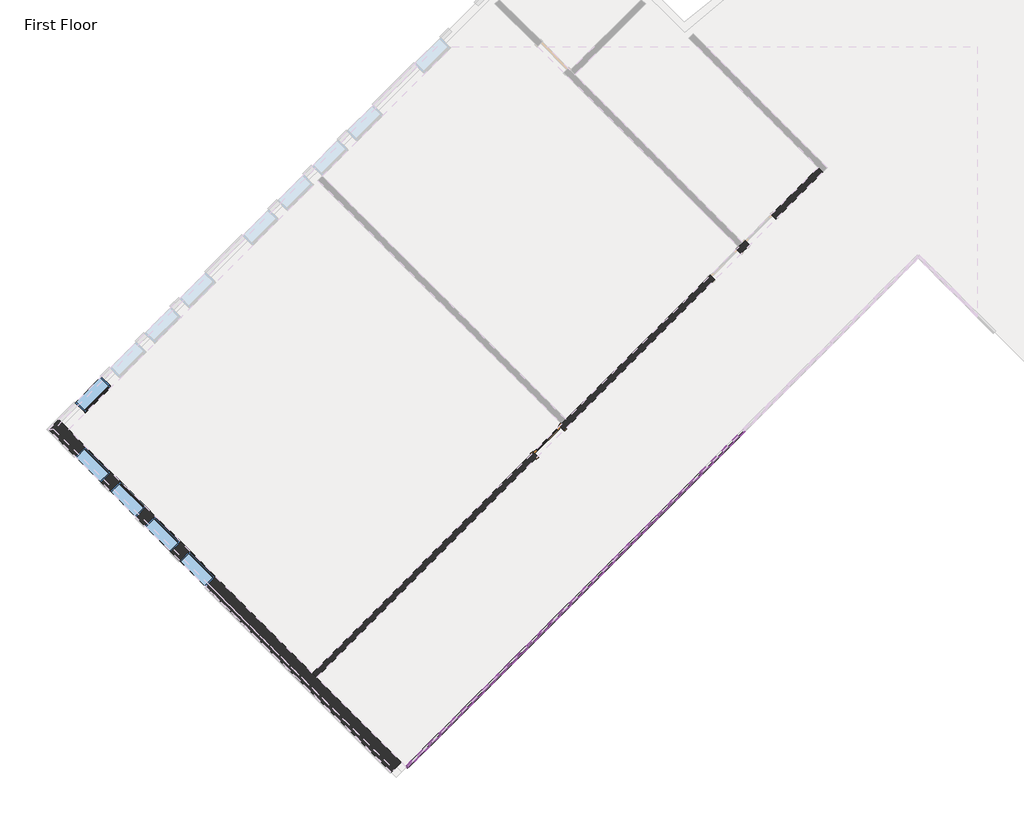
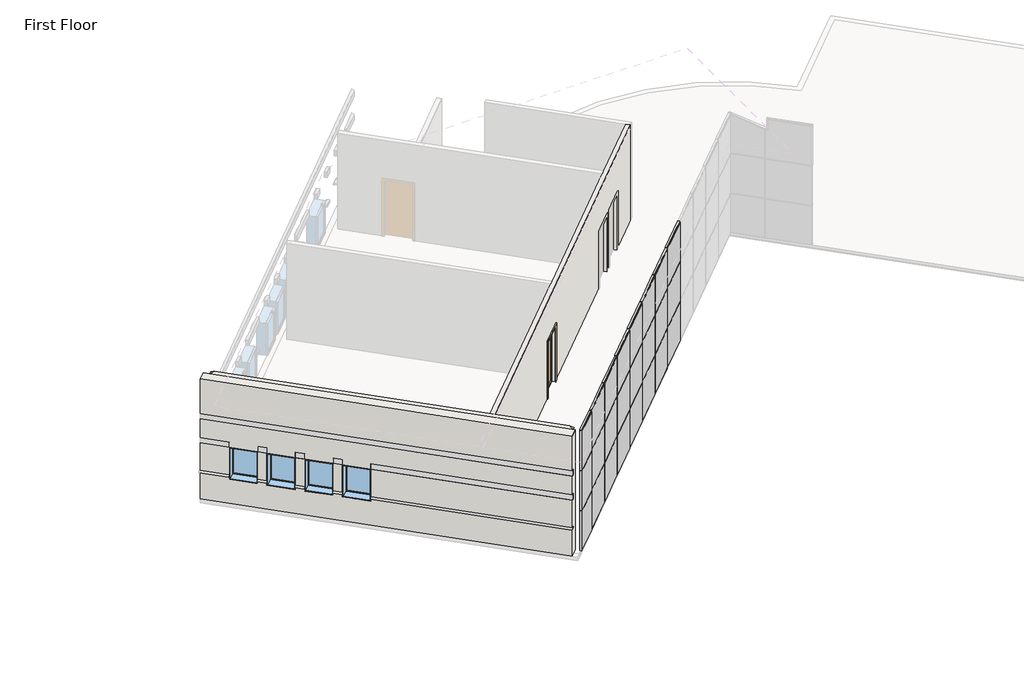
# One storey, part 1 of 7: 55 members, 24 plates, 5 windows, 2 walls, 1 door.
"""IFC4 building model written with IfcOpenShell, lengths in millimetres."""

from ifc_helpers import new_model, si_unit, origin, place, context, project, spatial, faceted_brep, transform, mapped, element, save
from components import door_b81abb0e, member_501cf4ca, member_155beb68, member_42be4715, member_2a473b70, member_6121af53, member_3d68c01a, member_b87a50da, member_c3f37f0b, system_panel_glazed_da345f4e, system_panel_glazed_f1e4c5b0, system_panel_glazed_6b3f3dd8, system_panel_glazed_4e4f70a1, system_panel_solid_cb9a7247, system_panel_solid_e887e8ce, window_15c49d37, window_0e2fc6ce

model = new_model("IFC4")

# Units and contexts
model_context = context("Model", 3, world=origin())
ifc_project = project(units=[si_unit("LENGTHUNIT", "METRE", prefix="MILLI")], contexts=[model_context])

# Site, building, storey
site = spatial("IfcSite", under=ifc_project)
building = spatial("IfcBuilding", under=site)
storey = spatial("IfcBuildingStorey", under=building, Name="First Floor", Elevation=0.0)

# Door
placement = place(None, origin())
door_shape = door_b81abb0e(model_context)
element("IfcDoor", 1, ObjectType="Single-Glass 1 : 36\" x 84\"", at=placement, inside=storey, context=model_context, shape_type="MappedRepresentation", body=[
    mapped(door_shape, transform((-12027.7718255, -1647.4849877, 0.0), x_axis=(0.7071067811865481, 0.7071067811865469, 0.0), y_axis=(-0.7071067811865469, 0.7071067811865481, 0.0), z_axis=(0.0, 0.0, 1.0))),
])

# Members
member_shape = member_501cf4ca(model_context)
element("IfcMember", 2, ObjectType="Rectangular Mullion : 1.5\" x 2.5\" Rectangular", at=placement, inside=storey, context=model_context, shape_type="MappedRepresentation", body=[
    mapped(member_shape, transform((-15523.4543029, -9702.8925106, 4567.7666667), x_axis=(0.0, 0.0, 1.0), y_axis=(-0.7071067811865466, 0.7071067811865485, 0.0), z_axis=(-0.7071067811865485, -0.7071067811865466, 0.0))),
])
member_2_shape = member_155beb68(model_context)
element("IfcMember", 3, ObjectType="Rectangular Mullion : 1.5\" x 2.5\" Rectangular", at=placement, inside=storey, context=model_context, shape_type="MappedRepresentation", body=[
    mapped(member_2_shape, transform((-8256.1820372, -2435.6202448, 0.0), x_axis=(-0.7071067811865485, -0.7071067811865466, 0.0), y_axis=(-0.7071067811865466, 0.7071067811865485, 0.0), z_axis=(0.0, 0.0, -1.0))),
])
element("IfcMember", 4, ObjectType="Rectangular Mullion : 1.5\" x 2.5\" Rectangular", at=placement, inside=storey, context=model_context, shape_type="MappedRepresentation", body=[
    mapped(member_2_shape, transform((-9333.8127717, -3513.2509794, 0.0), x_axis=(-0.7071067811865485, -0.7071067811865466, 0.0), y_axis=(-0.7071067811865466, 0.7071067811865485, 0.0), z_axis=(0.0, 0.0, -1.0))),
])
element("IfcMember", 5, ObjectType="Rectangular Mullion : 1.5\" x 2.5\" Rectangular", at=placement, inside=storey, context=model_context, shape_type="MappedRepresentation", body=[
    mapped(member_2_shape, transform((-10411.4435062, -4590.8817139, 0.0), x_axis=(-0.7071067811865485, -0.7071067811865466, 0.0), y_axis=(-0.7071067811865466, 0.7071067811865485, 0.0), z_axis=(0.0, 0.0, -1.0))),
])
element("IfcMember", 6, ObjectType="Rectangular Mullion : 1.5\" x 2.5\" Rectangular", at=placement, inside=storey, context=model_context, shape_type="MappedRepresentation", body=[
    mapped(member_2_shape, transform((-11489.0742407, -5668.5124484, 0.0), x_axis=(-0.7071067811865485, -0.7071067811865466, 0.0), y_axis=(-0.7071067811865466, 0.7071067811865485, 0.0), z_axis=(0.0, 0.0, -1.0))),
])
element("IfcMember", 7, ObjectType="Rectangular Mullion : 1.5\" x 2.5\" Rectangular", at=placement, inside=storey, context=model_context, shape_type="MappedRepresentation", body=[
    mapped(member_2_shape, transform((-12566.7049753, -6746.143183, 0.0), x_axis=(-0.7071067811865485, -0.7071067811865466, 0.0), y_axis=(-0.7071067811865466, 0.7071067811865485, 0.0), z_axis=(0.0, 0.0, -1.0))),
])
element("IfcMember", 8, ObjectType="Rectangular Mullion : 1.5\" x 2.5\" Rectangular", at=placement, inside=storey, context=model_context, shape_type="MappedRepresentation", body=[
    mapped(member_2_shape, transform((-13644.3357098, -7823.7739175, 0.0), x_axis=(-0.7071067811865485, -0.7071067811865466, 0.0), y_axis=(-0.7071067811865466, 0.7071067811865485, 0.0), z_axis=(0.0, 0.0, -1.0))),
])
element("IfcMember", 9, ObjectType="Rectangular Mullion : 1.5\" x 2.5\" Rectangular", at=placement, inside=storey, context=model_context, shape_type="MappedRepresentation", body=[
    mapped(member_2_shape, transform((-14721.9664443, -8901.404652, 0.0), x_axis=(-0.7071067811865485, -0.7071067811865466, 0.0), y_axis=(-0.7071067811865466, 0.7071067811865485, 0.0), z_axis=(0.0, 0.0, -1.0))),
])
member_3_shape = member_42be4715(model_context)
element("IfcMember", 10, ObjectType="Rectangular Mullion : 1.5\" x 2.5\" Rectangular", at=placement, inside=storey, context=model_context, shape_type="MappedRepresentation", body=[
    mapped(member_3_shape, transform((-8242.711653, -2422.1498607, 1524.0), x_axis=(0.0, 0.0, 1.0), y_axis=(-0.7071067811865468, 0.7071067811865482, 0.0), z_axis=(-0.7071067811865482, -0.7071067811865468, 0.0))),
])
element("IfcMember", 11, ObjectType="Rectangular Mullion : 1.5\" x 2.5\" Rectangular", at=placement, inside=storey, context=model_context, shape_type="MappedRepresentation", body=[
    mapped(member_3_shape, transform((-9320.3423875, -3499.7805952, 1524.0), x_axis=(0.0, 0.0, 1.0), y_axis=(-0.7071067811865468, 0.7071067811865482, 0.0), z_axis=(-0.7071067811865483, -0.7071067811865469, 0.0))),
])
element("IfcMember", 12, ObjectType="Rectangular Mullion : 1.5\" x 2.5\" Rectangular", at=placement, inside=storey, context=model_context, shape_type="MappedRepresentation", body=[
    mapped(member_3_shape, transform((-10397.973122, -4577.4113297, 1524.0), x_axis=(0.0, 0.0, 1.0), y_axis=(-0.7071067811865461, 0.707106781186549, 0.0), z_axis=(-0.707106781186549, -0.7071067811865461, 0.0))),
])
element("IfcMember", 13, ObjectType="Rectangular Mullion : 1.5\" x 2.5\" Rectangular", at=placement, inside=storey, context=model_context, shape_type="MappedRepresentation", body=[
    mapped(member_3_shape, transform((-11475.6038566, -5655.0420642, 1524.0), x_axis=(0.0, 0.0, 1.0), y_axis=(-0.7071067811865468, 0.7071067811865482, 0.0), z_axis=(-0.7071067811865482, -0.7071067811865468, 0.0))),
])
element("IfcMember", 14, ObjectType="Rectangular Mullion : 1.5\" x 2.5\" Rectangular", at=placement, inside=storey, context=model_context, shape_type="MappedRepresentation", body=[
    mapped(member_3_shape, transform((-12553.2345911, -6732.6727988, 1524.0), x_axis=(0.0, 0.0, 1.0), y_axis=(-0.7071067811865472, 0.7071067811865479, 0.0), z_axis=(-0.7071067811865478, -0.7071067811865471, 0.0))),
])
element("IfcMember", 15, ObjectType="Rectangular Mullion : 1.5\" x 2.5\" Rectangular", at=placement, inside=storey, context=model_context, shape_type="MappedRepresentation", body=[
    mapped(member_3_shape, transform((-13630.8653256, -7810.3035333, 1524.0), x_axis=(0.0, 0.0, 1.0), y_axis=(-0.7071067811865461, 0.7071067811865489, 0.0), z_axis=(-0.7071067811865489, -0.7071067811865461, 0.0))),
])
element("IfcMember", 16, ObjectType="Rectangular Mullion : 1.5\" x 2.5\" Rectangular", at=placement, inside=storey, context=model_context, shape_type="MappedRepresentation", body=[
    mapped(member_3_shape, transform((-14708.4960602, -8887.9342678, 1524.0), x_axis=(0.0, 0.0, 1.0), y_axis=(-0.7071067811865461, 0.707106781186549, 0.0), z_axis=(-0.7071067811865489, -0.707106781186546, 0.0))),
])
element("IfcMember", 17, ObjectType="Rectangular Mullion : 1.5\" x 2.5\" Rectangular", at=placement, inside=storey, context=model_context, shape_type="MappedRepresentation", body=[
    mapped(member_3_shape, transform((-8242.711653, -2422.1498607, 3048.0), x_axis=(0.0, 0.0, 1.0), y_axis=(-0.7071067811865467, 0.7071067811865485, 0.0), z_axis=(-0.7071067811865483, -0.7071067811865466, 0.0))),
])
element("IfcMember", 18, ObjectType="Rectangular Mullion : 1.5\" x 2.5\" Rectangular", at=placement, inside=storey, context=model_context, shape_type="MappedRepresentation", body=[
    mapped(member_3_shape, transform((-9320.3423875, -3499.7805952, 3048.0), x_axis=(0.0, 0.0, 1.0), y_axis=(-0.7071067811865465, 0.7071067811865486, 0.0), z_axis=(-0.7071067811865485, -0.7071067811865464, 0.0))),
])
element("IfcMember", 19, ObjectType="Rectangular Mullion : 1.5\" x 2.5\" Rectangular", at=placement, inside=storey, context=model_context, shape_type="MappedRepresentation", body=[
    mapped(member_3_shape, transform((-10397.973122, -4577.4113297, 3048.0), x_axis=(0.0, 0.0, 1.0), y_axis=(-0.7071067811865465, 0.7071067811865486, 0.0), z_axis=(-0.7071067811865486, -0.7071067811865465, 0.0))),
])
element("IfcMember", 20, ObjectType="Rectangular Mullion : 1.5\" x 2.5\" Rectangular", at=placement, inside=storey, context=model_context, shape_type="MappedRepresentation", body=[
    mapped(member_3_shape, transform((-11475.6038566, -5655.0420642, 3048.0), x_axis=(0.0, 0.0, 1.0), y_axis=(-0.7071067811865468, 0.7071067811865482, 0.0), z_axis=(-0.7071067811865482, -0.7071067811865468, 0.0))),
])
element("IfcMember", 21, ObjectType="Rectangular Mullion : 1.5\" x 2.5\" Rectangular", at=placement, inside=storey, context=model_context, shape_type="MappedRepresentation", body=[
    mapped(member_3_shape, transform((-12553.2345911, -6732.6727988, 3048.0), x_axis=(0.0, 0.0, 1.0), y_axis=(-0.7071067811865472, 0.7071067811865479, 0.0), z_axis=(-0.7071067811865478, -0.7071067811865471, 0.0))),
])
element("IfcMember", 22, ObjectType="Rectangular Mullion : 1.5\" x 2.5\" Rectangular", at=placement, inside=storey, context=model_context, shape_type="MappedRepresentation", body=[
    mapped(member_3_shape, transform((-13630.8653256, -7810.3035333, 3048.0), x_axis=(0.0, 0.0, 1.0), y_axis=(-0.7071067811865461, 0.7071067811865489, 0.0), z_axis=(-0.7071067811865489, -0.7071067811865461, 0.0))),
])
element("IfcMember", 23, ObjectType="Rectangular Mullion : 1.5\" x 2.5\" Rectangular", at=placement, inside=storey, context=model_context, shape_type="MappedRepresentation", body=[
    mapped(member_3_shape, transform((-14708.4960602, -8887.9342678, 3048.0), x_axis=(0.0, 0.0, 1.0), y_axis=(-0.7071067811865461, 0.707106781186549, 0.0), z_axis=(-0.7071067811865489, -0.707106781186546, 0.0))),
])
member_4_shape = member_2a473b70(model_context)
element("IfcMember", 24, ObjectType="Rectangular Mullion : 1.5\" x 2.5\" Rectangular", at=placement, inside=storey, context=model_context, shape_type="MappedRepresentation", body=[
    mapped(member_4_shape, transform((-15523.4543029, -9702.8925106, 1524.0), x_axis=(0.0, 0.0, 1.0), y_axis=(-0.7071067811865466, 0.7071067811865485, 0.0), z_axis=(-0.7071067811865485, -0.7071067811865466, 0.0))),
])
element("IfcMember", 25, ObjectType="Rectangular Mullion : 1.5\" x 2.5\" Rectangular", at=placement, inside=storey, context=model_context, shape_type="MappedRepresentation", body=[
    mapped(member_4_shape, transform((-15523.4543029, -9702.8925106, 3048.0), x_axis=(0.0, 0.0, 1.0), y_axis=(-0.7071067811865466, 0.7071067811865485, 0.0), z_axis=(-0.7071067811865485, -0.7071067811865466, 0.0))),
])
member_5_shape = member_6121af53(model_context)
element("IfcMember", 26, ObjectType="Rectangular Mullion : 1.5\" x 2.5\" Rectangular", at=placement, inside=storey, context=model_context, shape_type="MappedRepresentation", body=[
    mapped(member_5_shape, transform((-8269.6524213, -2449.090629, 0.0), x_axis=(0.0, 0.0, -1.0), y_axis=(-0.7071067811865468, 0.7071067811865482, 0.0), z_axis=(0.7071067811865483, 0.7071067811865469, 0.0))),
])
element("IfcMember", 27, ObjectType="Rectangular Mullion : 1.5\" x 2.5\" Rectangular", at=placement, inside=storey, context=model_context, shape_type="MappedRepresentation", body=[
    mapped(member_5_shape, transform((-9347.2831559, -3526.7213635, 0.0), x_axis=(0.0, 0.0, -1.0), y_axis=(-0.7071067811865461, 0.707106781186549, 0.0), z_axis=(0.707106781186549, 0.7071067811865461, 0.0))),
])
element("IfcMember", 28, ObjectType="Rectangular Mullion : 1.5\" x 2.5\" Rectangular", at=placement, inside=storey, context=model_context, shape_type="MappedRepresentation", body=[
    mapped(member_5_shape, transform((-10424.9138904, -4604.3520981, 0.0), x_axis=(0.0, 0.0, -1.0), y_axis=(-0.7071067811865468, 0.7071067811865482, 0.0), z_axis=(0.7071067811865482, 0.7071067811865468, 0.0))),
])
element("IfcMember", 29, ObjectType="Rectangular Mullion : 1.5\" x 2.5\" Rectangular", at=placement, inside=storey, context=model_context, shape_type="MappedRepresentation", body=[
    mapped(member_5_shape, transform((-11502.5446249, -5681.9828326, 0.0), x_axis=(0.0, 0.0, -1.0), y_axis=(-0.7071067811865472, 0.7071067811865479, 0.0), z_axis=(0.7071067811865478, 0.7071067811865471, 0.0))),
])
element("IfcMember", 30, ObjectType="Rectangular Mullion : 1.5\" x 2.5\" Rectangular", at=placement, inside=storey, context=model_context, shape_type="MappedRepresentation", body=[
    mapped(member_5_shape, transform((-12580.1753595, -6759.6135671, 0.0), x_axis=(0.0, 0.0, -1.0), y_axis=(-0.7071067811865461, 0.7071067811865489, 0.0), z_axis=(0.7071067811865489, 0.7071067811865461, 0.0))),
])
element("IfcMember", 31, ObjectType="Rectangular Mullion : 1.5\" x 2.5\" Rectangular", at=placement, inside=storey, context=model_context, shape_type="MappedRepresentation", body=[
    mapped(member_5_shape, transform((-13657.806094, -7837.2443017, 0.0), x_axis=(0.0, 0.0, -1.0), y_axis=(-0.7071067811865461, 0.707106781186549, 0.0), z_axis=(0.7071067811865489, 0.707106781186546, 0.0))),
])
element("IfcMember", 32, ObjectType="Rectangular Mullion : 1.5\" x 2.5\" Rectangular", at=placement, inside=storey, context=model_context, shape_type="MappedRepresentation", body=[
    mapped(member_shape, transform((-14735.4368285, -8914.8750362, 0.0), x_axis=(0.0, 0.0, -1.0), y_axis=(-0.7071067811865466, 0.7071067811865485, 0.0), z_axis=(0.7071067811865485, 0.7071067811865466, 0.0))),
])
element("IfcMember", 33, ObjectType="Rectangular Mullion : 1.5\" x 2.5\" Rectangular", at=placement, inside=storey, context=model_context, shape_type="MappedRepresentation", body=[
    mapped(member_5_shape, transform((-8242.711653, -2422.1498607, 4567.7666667), x_axis=(0.0, 0.0, 1.0), y_axis=(-0.7071067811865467, 0.7071067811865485, 0.0), z_axis=(-0.7071067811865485, -0.7071067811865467, 0.0))),
])
element("IfcMember", 34, ObjectType="Rectangular Mullion : 1.5\" x 2.5\" Rectangular", at=placement, inside=storey, context=model_context, shape_type="MappedRepresentation", body=[
    mapped(member_5_shape, transform((-9320.3423875, -3499.7805952, 4567.7666667), x_axis=(0.0, 0.0, 1.0), y_axis=(-0.7071067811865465, 0.7071067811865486, 0.0), z_axis=(-0.7071067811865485, -0.7071067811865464, 0.0))),
])
element("IfcMember", 35, ObjectType="Rectangular Mullion : 1.5\" x 2.5\" Rectangular", at=placement, inside=storey, context=model_context, shape_type="MappedRepresentation", body=[
    mapped(member_5_shape, transform((-10397.973122, -4577.4113297, 4567.7666667), x_axis=(0.0, 0.0, 1.0), y_axis=(-0.7071067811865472, 0.7071067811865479, 0.0), z_axis=(-0.7071067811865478, -0.7071067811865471, 0.0))),
])
element("IfcMember", 36, ObjectType="Rectangular Mullion : 1.5\" x 2.5\" Rectangular", at=placement, inside=storey, context=model_context, shape_type="MappedRepresentation", body=[
    mapped(member_5_shape, transform((-11475.6038566, -5655.0420642, 4567.7666667), x_axis=(0.0, 0.0, 1.0), y_axis=(-0.7071067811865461, 0.707106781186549, 0.0), z_axis=(-0.7071067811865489, -0.707106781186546, 0.0))),
])
element("IfcMember", 37, ObjectType="Rectangular Mullion : 1.5\" x 2.5\" Rectangular", at=placement, inside=storey, context=model_context, shape_type="MappedRepresentation", body=[
    mapped(member_5_shape, transform((-12553.2345911, -6732.6727988, 4567.7666667), x_axis=(0.0, 0.0, 1.0), y_axis=(-0.7071067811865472, 0.7071067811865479, 0.0), z_axis=(-0.7071067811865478, -0.7071067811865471, 0.0))),
])
element("IfcMember", 38, ObjectType="Rectangular Mullion : 1.5\" x 2.5\" Rectangular", at=placement, inside=storey, context=model_context, shape_type="MappedRepresentation", body=[
    mapped(member_5_shape, transform((-13630.8653256, -7810.3035333, 4567.7666667), x_axis=(0.0, 0.0, 1.0), y_axis=(-0.7071067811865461, 0.7071067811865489, 0.0), z_axis=(-0.7071067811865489, -0.7071067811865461, 0.0))),
])
element("IfcMember", 39, ObjectType="Rectangular Mullion : 1.5\" x 2.5\" Rectangular", at=placement, inside=storey, context=model_context, shape_type="MappedRepresentation", body=[
    mapped(member_5_shape, transform((-14708.4960602, -8887.9342678, 4567.7666667), x_axis=(0.0, 0.0, 1.0), y_axis=(-0.7071067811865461, 0.707106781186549, 0.0), z_axis=(-0.7071067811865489, -0.707106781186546, 0.0))),
])
element("IfcMember", 40, ObjectType="Rectangular Mullion : 1.5\" x 2.5\" Rectangular", at=placement, inside=storey, context=model_context, shape_type="MappedRepresentation", body=[
    mapped(member_2_shape, transform((-8256.1820372, -2435.6202448, 1524.0), x_axis=(-0.7071067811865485, -0.7071067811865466, 0.0), y_axis=(-0.7071067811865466, 0.7071067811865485, 0.0), z_axis=(0.0, 0.0, -1.0))),
])
element("IfcMember", 41, ObjectType="Rectangular Mullion : 1.5\" x 2.5\" Rectangular", at=placement, inside=storey, context=model_context, shape_type="MappedRepresentation", body=[
    mapped(member_2_shape, transform((-9333.8127717, -3513.2509794, 1524.0), x_axis=(-0.7071067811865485, -0.7071067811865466, 0.0), y_axis=(-0.7071067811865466, 0.7071067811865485, 0.0), z_axis=(0.0, 0.0, -1.0))),
])
element("IfcMember", 42, ObjectType="Rectangular Mullion : 1.5\" x 2.5\" Rectangular", at=placement, inside=storey, context=model_context, shape_type="MappedRepresentation", body=[
    mapped(member_2_shape, transform((-10411.4435062, -4590.8817139, 1524.0), x_axis=(-0.7071067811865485, -0.7071067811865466, 0.0), y_axis=(-0.7071067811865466, 0.7071067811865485, 0.0), z_axis=(0.0, 0.0, -1.0))),
])
element("IfcMember", 43, ObjectType="Rectangular Mullion : 1.5\" x 2.5\" Rectangular", at=placement, inside=storey, context=model_context, shape_type="MappedRepresentation", body=[
    mapped(member_2_shape, transform((-11489.0742407, -5668.5124484, 1524.0), x_axis=(-0.7071067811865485, -0.7071067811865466, 0.0), y_axis=(-0.7071067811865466, 0.7071067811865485, 0.0), z_axis=(0.0, 0.0, -1.0))),
])
element("IfcMember", 44, ObjectType="Rectangular Mullion : 1.5\" x 2.5\" Rectangular", at=placement, inside=storey, context=model_context, shape_type="MappedRepresentation", body=[
    mapped(member_2_shape, transform((-12566.7049753, -6746.143183, 1524.0), x_axis=(-0.7071067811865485, -0.7071067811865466, 0.0), y_axis=(-0.7071067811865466, 0.7071067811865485, 0.0), z_axis=(0.0, 0.0, -1.0))),
])
element("IfcMember", 45, ObjectType="Rectangular Mullion : 1.5\" x 2.5\" Rectangular", at=placement, inside=storey, context=model_context, shape_type="MappedRepresentation", body=[
    mapped(member_2_shape, transform((-13644.3357098, -7823.7739175, 1524.0), x_axis=(-0.7071067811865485, -0.7071067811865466, 0.0), y_axis=(-0.7071067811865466, 0.7071067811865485, 0.0), z_axis=(0.0, 0.0, -1.0))),
])
element("IfcMember", 46, ObjectType="Rectangular Mullion : 1.5\" x 2.5\" Rectangular", at=placement, inside=storey, context=model_context, shape_type="MappedRepresentation", body=[
    mapped(member_2_shape, transform((-14721.9664443, -8901.404652, 1524.0), x_axis=(-0.7071067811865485, -0.7071067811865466, 0.0), y_axis=(-0.7071067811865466, 0.7071067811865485, 0.0), z_axis=(0.0, 0.0, -1.0))),
])
member_6_shape = member_3d68c01a(model_context)
element("IfcMember", 47, ObjectType="Rectangular Mullion : 1.5\" x 2.5\" Rectangular", at=placement, inside=storey, context=model_context, shape_type="MappedRepresentation", body=[
    mapped(member_6_shape, transform((-8256.1820372, -2435.6202448, 3048.0), x_axis=(-0.7071067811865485, -0.7071067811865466, 0.0), y_axis=(-0.7071067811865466, 0.7071067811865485, 0.0), z_axis=(0.0, 0.0, -1.0))),
])
element("IfcMember", 48, ObjectType="Rectangular Mullion : 1.5\" x 2.5\" Rectangular", at=placement, inside=storey, context=model_context, shape_type="MappedRepresentation", body=[
    mapped(member_6_shape, transform((-9333.8127717, -3513.2509794, 3048.0), x_axis=(-0.7071067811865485, -0.7071067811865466, 0.0), y_axis=(-0.7071067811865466, 0.7071067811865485, 0.0), z_axis=(0.0, 0.0, -1.0))),
])
element("IfcMember", 49, ObjectType="Rectangular Mullion : 1.5\" x 2.5\" Rectangular", at=placement, inside=storey, context=model_context, shape_type="MappedRepresentation", body=[
    mapped(member_6_shape, transform((-10411.4435062, -4590.8817139, 3048.0), x_axis=(-0.7071067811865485, -0.7071067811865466, 0.0), y_axis=(-0.7071067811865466, 0.7071067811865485, 0.0), z_axis=(0.0, 0.0, -1.0))),
])
element("IfcMember", 50, ObjectType="Rectangular Mullion : 1.5\" x 2.5\" Rectangular", at=placement, inside=storey, context=model_context, shape_type="MappedRepresentation", body=[
    mapped(member_6_shape, transform((-11489.0742407, -5668.5124484, 3048.0), x_axis=(-0.7071067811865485, -0.7071067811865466, 0.0), y_axis=(-0.7071067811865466, 0.7071067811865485, 0.0), z_axis=(0.0, 0.0, -1.0))),
])
element("IfcMember", 51, ObjectType="Rectangular Mullion : 1.5\" x 2.5\" Rectangular", at=placement, inside=storey, context=model_context, shape_type="MappedRepresentation", body=[
    mapped(member_6_shape, transform((-12566.7049753, -6746.143183, 3048.0), x_axis=(-0.7071067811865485, -0.7071067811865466, 0.0), y_axis=(-0.7071067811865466, 0.7071067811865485, 0.0), z_axis=(0.0, 0.0, -1.0))),
])
element("IfcMember", 52, ObjectType="Rectangular Mullion : 1.5\" x 2.5\" Rectangular", at=placement, inside=storey, context=model_context, shape_type="MappedRepresentation", body=[
    mapped(member_6_shape, transform((-13644.3357098, -7823.7739175, 3048.0), x_axis=(-0.7071067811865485, -0.7071067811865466, 0.0), y_axis=(-0.7071067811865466, 0.7071067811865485, 0.0), z_axis=(0.0, 0.0, -1.0))),
])
element("IfcMember", 53, ObjectType="Rectangular Mullion : 1.5\" x 2.5\" Rectangular", at=placement, inside=storey, context=model_context, shape_type="MappedRepresentation", body=[
    mapped(member_6_shape, transform((-14721.9664443, -8901.404652, 3048.0), x_axis=(-0.7071067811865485, -0.7071067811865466, 0.0), y_axis=(-0.7071067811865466, 0.7071067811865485, 0.0), z_axis=(0.0, 0.0, -1.0))),
])
member_7_shape = member_b87a50da(model_context)
element("IfcMember", 54, ObjectType="Rectangular Mullion : 1.5\" x 2.5\" Rectangular", at=placement, inside=storey, context=model_context, shape_type="MappedRepresentation", body=[
    mapped(member_7_shape, transform((-15550.3950713, -9729.833279, 0.0), x_axis=(-0.7071067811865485, -0.7071067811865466, 0.0), y_axis=(-0.7071067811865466, 0.7071067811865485, 0.0), z_axis=(0.0, 0.0, -1.0))),
])
element("IfcMember", 55, ObjectType="Rectangular Mullion : 1.5\" x 2.5\" Rectangular", at=placement, inside=storey, context=model_context, shape_type="MappedRepresentation", body=[
    mapped(member_7_shape, transform((-15550.3950713, -9729.833279, 1524.0), x_axis=(-0.7071067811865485, -0.7071067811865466, 0.0), y_axis=(-0.7071067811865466, 0.7071067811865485, 0.0), z_axis=(0.0, 0.0, -1.0))),
])
member_8_shape = member_c3f37f0b(model_context)
element("IfcMember", 56, ObjectType="Rectangular Mullion : 1.5\" x 2.5\" Rectangular", at=placement, inside=storey, context=model_context, shape_type="MappedRepresentation", body=[
    mapped(member_8_shape, transform((-15550.3950713, -9729.833279, 3048.0), x_axis=(-0.7071067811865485, -0.7071067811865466, 0.0), y_axis=(-0.7071067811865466, 0.7071067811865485, 0.0), z_axis=(0.0, 0.0, -1.0))),
])

# Plates
system_panel_glazed_shape = system_panel_glazed_da345f4e(model_context)
element("IfcPlate", 57, ObjectType="System Panel : Glazed", at=placement, inside=storey, context=model_context, shape_type="MappedRepresentation", body=[
    mapped(system_panel_glazed_shape, transform((-7717.3666699, -1896.8048776, 38.1), x_axis=(-0.7071067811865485, -0.7071067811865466, 0.0), y_axis=(0.7071067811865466, -0.7071067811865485, 0.0), z_axis=(0.0, 0.0, 1.0))),
])
element("IfcPlate", 58, ObjectType="System Panel : Glazed", at=placement, inside=storey, context=model_context, shape_type="MappedRepresentation", body=[
    mapped(system_panel_glazed_shape, transform((-8794.9974044, -2974.4356121, 38.1), x_axis=(-0.7071067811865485, -0.7071067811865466, 0.0), y_axis=(0.7071067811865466, -0.7071067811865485, 0.0), z_axis=(0.0, 0.0, 1.0))),
])
element("IfcPlate", 59, ObjectType="System Panel : Glazed", at=placement, inside=storey, context=model_context, shape_type="MappedRepresentation", body=[
    mapped(system_panel_glazed_shape, transform((-9872.628139, -4052.0663466, 38.1), x_axis=(-0.7071067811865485, -0.7071067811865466, 0.0), y_axis=(0.7071067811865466, -0.7071067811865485, 0.0), z_axis=(0.0, 0.0, 1.0))),
])
element("IfcPlate", 60, ObjectType="System Panel : Glazed", at=placement, inside=storey, context=model_context, shape_type="MappedRepresentation", body=[
    mapped(system_panel_glazed_shape, transform((-10950.2588735, -5129.6970812, 38.1), x_axis=(-0.7071067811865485, -0.7071067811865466, 0.0), y_axis=(0.7071067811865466, -0.7071067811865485, 0.0), z_axis=(0.0, 0.0, 1.0))),
])
element("IfcPlate", 61, ObjectType="System Panel : Glazed", at=placement, inside=storey, context=model_context, shape_type="MappedRepresentation", body=[
    mapped(system_panel_glazed_shape, transform((-12027.889608, -6207.3278157, 38.1), x_axis=(-0.7071067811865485, -0.7071067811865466, 0.0), y_axis=(0.7071067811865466, -0.7071067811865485, 0.0), z_axis=(0.0, 0.0, 1.0))),
])
element("IfcPlate", 62, ObjectType="System Panel : Glazed", at=placement, inside=storey, context=model_context, shape_type="MappedRepresentation", body=[
    mapped(system_panel_glazed_shape, transform((-13105.5203425, -7284.9585502, 38.1), x_axis=(-0.7071067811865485, -0.7071067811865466, 0.0), y_axis=(0.7071067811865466, -0.7071067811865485, 0.0), z_axis=(0.0, 0.0, 1.0))),
])
element("IfcPlate", 63, ObjectType="System Panel : Glazed", at=placement, inside=storey, context=model_context, shape_type="MappedRepresentation", body=[
    mapped(system_panel_glazed_shape, transform((-14183.1510771, -8362.5892847, 38.1), x_axis=(-0.7071067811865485, -0.7071067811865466, 0.0), y_axis=(0.7071067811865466, -0.7071067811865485, 0.0), z_axis=(0.0, 0.0, 1.0))),
])
system_panel_glazed_2_shape = system_panel_glazed_f1e4c5b0(model_context)
element("IfcPlate", 64, ObjectType="System Panel : Glazed", at=placement, inside=storey, context=model_context, shape_type="MappedRepresentation", body=[
    mapped(system_panel_glazed_2_shape, transform((-7717.3666699, -1896.8048776, 1543.05), x_axis=(-0.7071067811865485, -0.7071067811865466, 0.0), y_axis=(0.7071067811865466, -0.7071067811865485, 0.0), z_axis=(0.0, 0.0, 1.0))),
])
element("IfcPlate", 65, ObjectType="System Panel : Glazed", at=placement, inside=storey, context=model_context, shape_type="MappedRepresentation", body=[
    mapped(system_panel_glazed_2_shape, transform((-8794.9974044, -2974.4356121, 1543.05), x_axis=(-0.7071067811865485, -0.7071067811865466, 0.0), y_axis=(0.7071067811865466, -0.7071067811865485, 0.0), z_axis=(0.0, 0.0, 1.0))),
])
element("IfcPlate", 66, ObjectType="System Panel : Glazed", at=placement, inside=storey, context=model_context, shape_type="MappedRepresentation", body=[
    mapped(system_panel_glazed_2_shape, transform((-9872.628139, -4052.0663466, 1543.05), x_axis=(-0.7071067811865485, -0.7071067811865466, 0.0), y_axis=(0.7071067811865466, -0.7071067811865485, 0.0), z_axis=(0.0, 0.0, 1.0))),
])
element("IfcPlate", 67, ObjectType="System Panel : Glazed", at=placement, inside=storey, context=model_context, shape_type="MappedRepresentation", body=[
    mapped(system_panel_glazed_2_shape, transform((-10950.2588735, -5129.6970812, 1543.05), x_axis=(-0.7071067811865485, -0.7071067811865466, 0.0), y_axis=(0.7071067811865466, -0.7071067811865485, 0.0), z_axis=(0.0, 0.0, 1.0))),
])
element("IfcPlate", 68, ObjectType="System Panel : Glazed", at=placement, inside=storey, context=model_context, shape_type="MappedRepresentation", body=[
    mapped(system_panel_glazed_2_shape, transform((-12027.889608, -6207.3278157, 1543.05), x_axis=(-0.7071067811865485, -0.7071067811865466, 0.0), y_axis=(0.7071067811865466, -0.7071067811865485, 0.0), z_axis=(0.0, 0.0, 1.0))),
])
element("IfcPlate", 69, ObjectType="System Panel : Glazed", at=placement, inside=storey, context=model_context, shape_type="MappedRepresentation", body=[
    mapped(system_panel_glazed_2_shape, transform((-13105.5203425, -7284.9585502, 1543.05), x_axis=(-0.7071067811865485, -0.7071067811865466, 0.0), y_axis=(0.7071067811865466, -0.7071067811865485, 0.0), z_axis=(0.0, 0.0, 1.0))),
])
element("IfcPlate", 70, ObjectType="System Panel : Glazed", at=placement, inside=storey, context=model_context, shape_type="MappedRepresentation", body=[
    mapped(system_panel_glazed_2_shape, transform((-14183.1510771, -8362.5892847, 1543.05), x_axis=(-0.7071067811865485, -0.7071067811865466, 0.0), y_axis=(0.7071067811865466, -0.7071067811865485, 0.0), z_axis=(0.0, 0.0, 1.0))),
])
system_panel_glazed_3_shape = system_panel_glazed_6b3f3dd8(model_context)
element("IfcPlate", 71, ObjectType="System Panel : Glazed", at=placement, inside=storey, context=model_context, shape_type="MappedRepresentation", body=[
    mapped(system_panel_glazed_3_shape, transform((-15129.4455657, -9308.8837734, 38.1), x_axis=(-0.7071067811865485, -0.7071067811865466, 0.0), y_axis=(0.7071067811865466, -0.7071067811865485, 0.0), z_axis=(0.0, 0.0, 1.0))),
])
system_panel_glazed_4_shape = system_panel_glazed_4e4f70a1(model_context)
element("IfcPlate", 72, ObjectType="System Panel : Glazed", at=placement, inside=storey, context=model_context, shape_type="MappedRepresentation", body=[
    mapped(system_panel_glazed_4_shape, transform((-15129.4455657, -9308.8837734, 1543.05), x_axis=(-0.7071067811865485, -0.7071067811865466, 0.0), y_axis=(0.7071067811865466, -0.7071067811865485, 0.0), z_axis=(0.0, 0.0, 1.0))),
])
system_panel_solid_shape = system_panel_solid_cb9a7247(model_context)
element("IfcPlate", 73, ObjectType="System Panel : Solid", at=placement, inside=storey, context=model_context, shape_type="MappedRepresentation", body=[
    mapped(system_panel_solid_shape, transform((-7717.3666699, -1896.8048776, 3067.05), x_axis=(-0.7071067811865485, -0.7071067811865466, 0.0), y_axis=(0.7071067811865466, -0.7071067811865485, 0.0), z_axis=(0.0, 0.0, 1.0))),
])
element("IfcPlate", 74, ObjectType="System Panel : Solid", at=placement, inside=storey, context=model_context, shape_type="MappedRepresentation", body=[
    mapped(system_panel_solid_shape, transform((-8794.9974044, -2974.4356121, 3067.05), x_axis=(-0.7071067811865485, -0.7071067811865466, 0.0), y_axis=(0.7071067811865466, -0.7071067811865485, 0.0), z_axis=(0.0, 0.0, 1.0))),
])
element("IfcPlate", 75, ObjectType="System Panel : Solid", at=placement, inside=storey, context=model_context, shape_type="MappedRepresentation", body=[
    mapped(system_panel_solid_shape, transform((-9872.628139, -4052.0663466, 3067.05), x_axis=(-0.7071067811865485, -0.7071067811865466, 0.0), y_axis=(0.7071067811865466, -0.7071067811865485, 0.0), z_axis=(0.0, 0.0, 1.0))),
])
element("IfcPlate", 76, ObjectType="System Panel : Solid", at=placement, inside=storey, context=model_context, shape_type="MappedRepresentation", body=[
    mapped(system_panel_solid_shape, transform((-10950.2588735, -5129.6970812, 3067.05), x_axis=(-0.7071067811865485, -0.7071067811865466, 0.0), y_axis=(0.7071067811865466, -0.7071067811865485, 0.0), z_axis=(0.0, 0.0, 1.0))),
])
element("IfcPlate", 77, ObjectType="System Panel : Solid", at=placement, inside=storey, context=model_context, shape_type="MappedRepresentation", body=[
    mapped(system_panel_solid_shape, transform((-12027.889608, -6207.3278157, 3067.05), x_axis=(-0.7071067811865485, -0.7071067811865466, 0.0), y_axis=(0.7071067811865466, -0.7071067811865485, 0.0), z_axis=(0.0, 0.0, 1.0))),
])
element("IfcPlate", 78, ObjectType="System Panel : Solid", at=placement, inside=storey, context=model_context, shape_type="MappedRepresentation", body=[
    mapped(system_panel_solid_shape, transform((-13105.5203425, -7284.9585502, 3067.05), x_axis=(-0.7071067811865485, -0.7071067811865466, 0.0), y_axis=(0.7071067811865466, -0.7071067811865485, 0.0), z_axis=(0.0, 0.0, 1.0))),
])
element("IfcPlate", 79, ObjectType="System Panel : Solid", at=placement, inside=storey, context=model_context, shape_type="MappedRepresentation", body=[
    mapped(system_panel_solid_shape, transform((-14183.1510771, -8362.5892847, 3067.05), x_axis=(-0.7071067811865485, -0.7071067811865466, 0.0), y_axis=(0.7071067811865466, -0.7071067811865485, 0.0), z_axis=(0.0, 0.0, 1.0))),
])
system_panel_solid_2_shape = system_panel_solid_e887e8ce(model_context)
element("IfcPlate", 80, ObjectType="System Panel : Solid", at=placement, inside=storey, context=model_context, shape_type="MappedRepresentation", body=[
    mapped(system_panel_solid_2_shape, transform((-15129.4455657, -9308.8837734, 3067.05), x_axis=(-0.7071067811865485, -0.7071067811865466, 0.0), y_axis=(0.7071067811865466, -0.7071067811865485, 0.0), z_axis=(0.0, 0.0, 1.0))),
])

# Walls
element("IfcWall", 81, ObjectType="Exterior - Split Face and CMU on Mtl. Stud", at=placement, inside=storey, context=model_context, shape_type="Brep", body=[
    faceted_brep([(-23922.2388402, -1357.9895101, 4689.475), (-15799.5971786, -9480.6311716, 4689.475), (-15693.3648307, -9586.8635196, 4639.3965909), (-23922.2388402, -1357.9895101, 4639.3965909), (-23997.6295387, -1282.5988115, 4653.9354839), (-15799.5971786, -9631.4125687, 4653.9354839), (-24073.0202373, -1357.9895101, 4653.9354839)], [[[0, 1, 2, 3, 4]], [[2, 1, 5]], [[1, 0, 6, 5]], [[0, 4, 6]], [[6, 3, 2, 5]], [[3, 6, 4]]]),
    faceted_brep([(-15674.996125, -9605.2322253, 0.0), (-17775.2535253, -7504.974825, 0.0), (-17885.2616628, -7394.9666875, 0.0), (-23922.2388402, -1357.9895101, 0.0), (-24171.4409475, -1108.7874027, 0.0), (-24171.4409475, -1108.7874027, 1016.0), (-24106.3340906, -1173.8942596, 1016.0), (-24106.3340906, -1173.8942596, 1085.85), (-24171.4409475, -1108.7874027, 1085.85), (-24171.4409475, -1108.7874027, 2133.6), (-24106.3340906, -1173.8942596, 2133.6), (-24106.3340906, -1173.8942596, 2336.8), (-24171.4409475, -1108.7874027, 2336.8), (-24171.4409475, -1108.7874027, 3048.0), (-24106.3340906, -1173.8942596, 3048.0), (-24106.3340906, -1173.8942596, 3251.2), (-24171.4409475, -1108.7874027, 3251.2), (-24171.4409475, -1108.7874027, 4572.0), (-23922.2388402, -1357.9895101, 4572.0), (-15674.996125, -9605.2322253, 4572.0), (-20921.7107637, -4358.5175865, 2133.6), (-20921.7107637, -4358.5175865, 914.4), (-20275.132323, -5005.0960273, 914.4), (-20275.132323, -5005.0960273, 2133.6), (-21783.8153513, -3496.4129989, 2133.6), (-21783.8153513, -3496.4129989, 914.4), (-21137.2369106, -4142.9914396, 914.4), (-21137.2369106, -4142.9914396, 2133.6), (-22645.9199389, -2634.3084113, 2133.6), (-22645.9199389, -2634.3084113, 914.4), (-21999.3414982, -3280.886852, 914.4), (-21999.3414982, -3280.886852, 2133.6), (-23508.0245266, -1772.2038237, 2133.6), (-23508.0245266, -1772.2038237, 914.4), (-22861.4460859, -2418.7822644, 914.4), (-22861.4460859, -2418.7822644, 2133.6), (-24420.6430549, -1357.9895101, 0.0), (-15924.1982323, -9854.4343326, 0.0), (-15924.1982323, -9854.4343326, 1016.0), (-20524.3344303, -5254.2981346, 1016.0), (-20524.3344303, -5254.2981346, 914.4), (-21170.9128711, -4607.7196939, 914.4), (-21170.9128711, -4607.7196939, 1016.0), (-21386.439018, -4392.193547, 1016.0), (-21386.439018, -4392.193547, 914.4), (-22033.0174587, -3745.6151063, 914.4), (-22033.0174587, -3745.6151063, 1016.0), (-22248.5436056, -3530.0889594, 1016.0), (-22248.5436056, -3530.0889594, 914.4), (-22895.1220463, -2883.5105187, 914.4), (-22895.1220463, -2883.5105187, 1016.0), (-23110.6481932, -2667.9843718, 1016.0), (-23110.6481932, -2667.9843718, 914.4), (-23757.2266339, -2021.405931, 914.4), (-23757.2266339, -2021.405931, 1016.0), (-24420.6430549, -1357.9895101, 1016.0), (-21170.9128711, -4607.7196939, 2133.6), (-20524.3344303, -5254.2981346, 2133.6), (-20524.3344303, -5254.2981346, 2336.8), (-15924.1982323, -9854.4343326, 2336.8), (-15924.1982323, -9854.4343326, 3048.0), (-24420.6430549, -1357.9895101, 3048.0), (-24420.6430549, -1357.9895101, 2336.8), (-23757.2266339, -2021.405931, 2336.8), (-23757.2266339, -2021.405931, 2133.6), (-23110.6481932, -2667.9843718, 2133.6), (-23110.6481932, -2667.9843718, 2336.8), (-22895.1220463, -2883.5105187, 2336.8), (-22895.1220463, -2883.5105187, 2133.6), (-22248.5436056, -3530.0889594, 2133.6), (-22248.5436056, -3530.0889594, 2336.8), (-22033.0174587, -3745.6151063, 2336.8), (-22033.0174587, -3745.6151063, 2133.6), (-21386.439018, -4392.193547, 2133.6), (-21386.439018, -4392.193547, 2336.8), (-21170.9128711, -4607.7196939, 2336.8), (-20524.3344303, -5254.2981346, 1085.85), (-15924.1982323, -9854.4343326, 1085.85), (-15924.1982323, -9854.4343326, 2133.6), (-21170.9128711, -4607.7196939, 1085.85), (-21386.439018, -4392.193547, 1085.85), (-22033.0174587, -3745.6151063, 1085.85), (-22248.5436056, -3530.0889594, 1085.85), (-22895.1220463, -2883.5105187, 1085.85), (-23110.6481932, -2667.9843718, 1085.85), (-23757.2266339, -2021.405931, 1085.85), (-24420.6430549, -1357.9895101, 2133.6), (-24420.6430549, -1357.9895101, 1085.85), (-24420.6430549, -1357.9895101, 4572.0), (-24420.6430549, -1357.9895101, 3251.2), (-15924.1982323, -9854.4343326, 3251.2), (-15924.1982323, -9854.4343326, 4572.0), (-15859.0913754, -9789.3274758, 3251.2), (-15859.0913754, -9789.3274758, 3048.0), (-15859.0913754, -9789.3274758, 2336.8), (-15859.0913754, -9789.3274758, 2133.6), (-15859.0913754, -9789.3274758, 1085.85), (-15859.0913754, -9789.3274758, 1016.0), (-21105.8060142, -4542.612837, 2133.6), (-21105.8060142, -4542.612837, 1085.85), (-21105.8060142, -4542.612837, 1016.0), (-20459.2275735, -5189.1912777, 1016.0), (-20459.2275735, -5189.1912777, 1085.85), (-20459.2275735, -5189.1912777, 2133.6), (-21967.9106018, -3680.5082494, 2133.6), (-21967.9106018, -3680.5082494, 1085.85), (-21967.9106018, -3680.5082494, 1016.0), (-21321.3321611, -4327.0866901, 1016.0), (-21321.3321611, -4327.0866901, 1085.85), (-21321.3321611, -4327.0866901, 2133.6), (-22830.0151894, -2818.4036618, 2133.6), (-22830.0151894, -2818.4036618, 1085.85), (-22830.0151894, -2818.4036618, 1016.0), (-22183.4367487, -3464.9821025, 1016.0), (-22183.4367487, -3464.9821025, 1085.85), (-22183.4367487, -3464.9821025, 2133.6), (-23692.119777, -1956.2990742, 2133.6), (-23692.119777, -1956.2990742, 1085.85), (-23692.119777, -1956.2990742, 1016.0), (-23045.5413363, -2602.8775149, 1016.0), (-23045.5413363, -2602.8775149, 1085.85), (-23045.5413363, -2602.8775149, 2133.6), (-24290.4293411, -1357.9895101, 1085.85), (-24290.4293411, -1357.9895101, 1016.0), (-20459.2275735, -5189.1912777, 2336.8), (-20459.2275735, -5189.1912777, 2133.6), (-21105.8060142, -4542.612837, 2133.6), (-21105.8060142, -4542.612837, 2336.8), (-21321.3321611, -4327.0866901, 2336.8), (-21321.3321611, -4327.0866901, 2133.6), (-21967.9106018, -3680.5082494, 2133.6), (-21967.9106018, -3680.5082494, 2336.8), (-22183.4367487, -3464.9821025, 2336.8), (-22183.4367487, -3464.9821025, 2133.6), (-22830.0151894, -2818.4036618, 2133.6), (-22830.0151894, -2818.4036618, 2336.8), (-23045.5413363, -2602.8775149, 2336.8), (-23045.5413363, -2602.8775149, 2133.6), (-23692.119777, -1956.2990742, 2133.6), (-23692.119777, -1956.2990742, 2336.8), (-24290.4293411, -1357.9895101, 2133.6), (-24290.4293411, -1357.9895101, 2336.8), (-24290.4293411, -1357.9895101, 3048.0), (-24290.4293411, -1357.9895101, 3251.2)], [[[0, 1, 2, 3, 4, 5, 6, 7, 8, 9, 10, 11, 12, 13, 14, 15, 16, 17, 18, 19], [20, 21, 22, 23], [24, 25, 26, 27], [28, 29, 30, 31], [32, 33, 34, 35]], [[36, 37, 38, 39, 40, 41, 42, 43, 44, 45, 46, 47, 48, 49, 50, 51, 52, 53, 54, 55]], [[56, 57, 58, 59, 60, 61, 62, 63, 64, 65, 66, 67, 68, 69, 70, 71, 72, 73, 74, 75]], [[57, 76, 77, 78]], [[79, 56, 73, 80]], [[81, 72, 69, 82]], [[83, 68, 65, 84]], [[85, 64, 86, 87]], [[88, 89, 90, 91]], [[37, 0, 19, 91, 90, 92, 93, 60, 59, 94, 95, 78, 77, 96, 97, 38]], [[4, 36, 55, 5]], [[8, 87, 86, 9]], [[12, 62, 61, 13]], [[17, 16, 89, 88]], [[4, 3, 2, 1, 0, 37, 36]], [[21, 20, 98, 56, 79, 99, 100, 42, 41]], [[22, 21, 41, 40]], [[23, 22, 40, 39, 101, 102, 76, 57, 103]], [[20, 23, 103, 57, 56, 98]], [[25, 24, 104, 72, 81, 105, 106, 46, 45]], [[26, 25, 45, 44]], [[27, 26, 44, 43, 107, 108, 80, 73, 109]], [[24, 27, 109, 73, 72, 104]], [[29, 28, 110, 68, 83, 111, 112, 50, 49]], [[30, 29, 49, 48]], [[31, 30, 48, 47, 113, 114, 82, 69, 115]], [[28, 31, 115, 69, 68, 110]], [[33, 32, 116, 64, 85, 117, 118, 54, 53]], [[34, 33, 53, 52]], [[35, 34, 52, 51, 119, 120, 84, 65, 121]], [[32, 35, 121, 65, 64, 116]], [[102, 96, 77, 76]], [[97, 101, 39, 38]], [[96, 102, 101, 97]], [[108, 99, 79, 80]], [[100, 107, 43, 42]], [[99, 108, 107, 100]], [[114, 105, 81, 82]], [[106, 113, 47, 46]], [[105, 114, 113, 106]], [[120, 111, 83, 84]], [[112, 119, 51, 50]], [[111, 120, 119, 112]], [[122, 117, 85, 87, 8, 7]], [[118, 123, 6, 5, 55, 54]], [[117, 122, 123, 118]], [[123, 122, 7, 6]], [[124, 58, 57, 125]], [[125, 57, 78, 95]], [[124, 125, 95, 94]], [[58, 124, 94, 59]], [[126, 56, 75, 127]], [[128, 74, 73, 129]], [[56, 126, 129, 73]], [[126, 127, 128, 129]], [[127, 75, 74, 128]], [[130, 72, 71, 131]], [[132, 70, 69, 133]], [[72, 130, 133, 69]], [[130, 131, 132, 133]], [[131, 71, 70, 132]], [[134, 68, 67, 135]], [[136, 66, 65, 137]], [[68, 134, 137, 65]], [[134, 135, 136, 137]], [[135, 67, 66, 136]], [[138, 64, 63, 139]], [[64, 138, 140, 10, 9, 86]], [[138, 139, 141, 140]], [[139, 63, 62, 12, 11, 141]], [[140, 141, 11, 10]], [[93, 142, 14, 13, 61, 60]], [[142, 93, 92, 143]], [[143, 92, 90, 89, 16, 15]], [[142, 143, 15, 14]], [[19, 18, 17, 88, 91]]]),
])
element("IfcWall", 82, ObjectType="Interior - 6 1/8\" Partition (2-hr)", at=placement, inside=storey, context=model_context, shape_type="Brep", body=[
    faceted_brep([(-7374.9944051, 3115.3005702, 0.0), (-7322.2354004, 3168.0595749, 0.0), (-7212.2272629, 3278.0677124, 0.0), (-7159.4682582, 3330.8267171, 0.0), (-7049.4601207, 3220.8185796, 0.0), (-7264.9862676, 3005.2924327, 0.0), (-12296.0569771, -2025.7782768, 0.0), (-17775.2535253, -7504.974825, 0.0), (-17885.2616628, -7394.9666875, 0.0), (-12406.0651146, -1915.7701393, 0.0), (-7911.5647083, 2358.713992, 0.0), (-11649.4785364, -1379.1998361, 0.0), (-11759.4866739, -1269.1916986, 0.0), (-11706.7276692, -1216.4326939, 0.0), (-11596.7195317, -1106.4245564, 0.0), (-8021.5728458, 2468.7221295, 0.0), (-6512.8898174, 3977.4051578, 0.0), (-5348.5885532, 5141.7064221, 0.0), (-5238.5804157, 5031.6982846, 0.0), (-6402.88168, 3867.3970204, 0.0), (-17775.2535253, -7504.974825, 3657.6), (-5238.5804157, 5031.6982846, 3657.6), (-5348.5885532, 5141.7064221, 3657.6), (-7212.2272629, 3278.0677124, 3657.6), (-7322.2354004, 3168.0595749, 3657.6), (-11596.7195317, -1106.4245564, 3657.6), (-11706.7276692, -1216.4326939, 3657.6), (-17885.2616628, -7394.9666875, 3657.6), (-7049.4601207, 3220.8185796, 2133.6), (-6402.88168, 3867.3970204, 2133.6), (-12296.0569771, -2025.7782768, 2133.6), (-11649.4785364, -1379.1998361, 2133.6), (-7911.5647083, 2358.713992, 2133.6), (-7264.9862676, 3005.2924327, 2133.6), (-7159.4682582, 3330.8267171, 2133.6), (-7374.9944051, 3115.3005702, 2133.6), (-8021.5728458, 2468.7221295, 2133.6), (-11759.4866739, -1269.1916986, 2133.6), (-12406.0651146, -1915.7701393, 2133.6), (-6512.8898174, 3977.4051578, 2133.6)], [[[0, 1, 2, 3, 4, 5]], [[6, 7, 8, 9]], [[10, 11, 12, 13, 14, 15]], [[16, 17, 18, 19]], [[20, 21, 22, 23, 24, 25, 26, 27]], [[5, 4, 28, 29, 19, 18, 21, 20, 7, 6, 30, 31, 11, 10, 32, 33]], [[34, 3, 2, 1, 0, 35, 36, 15, 14, 13, 12, 37, 38, 9, 8, 27, 26, 25, 24, 23, 22, 17, 16, 39]], [[7, 20, 27, 8]], [[21, 18, 17, 22]], [[37, 12, 11, 31]], [[38, 37, 31, 30]], [[9, 38, 30, 6]], [[35, 0, 5, 33]], [[36, 35, 33, 32]], [[15, 36, 32, 10]], [[28, 4, 3, 34]], [[29, 28, 34, 39]], [[19, 29, 39, 16]]]),
])

# Windows
window_shape = window_15c49d37(model_context)
element("IfcWindow", 83, ObjectType="Fixed : 36\" x 48\"", at=placement, inside=storey, context=model_context, shape_type="MappedRepresentation", body=[
    mapped(window_shape, transform((-23336.2771283, -522.8256908, 0.0), x_axis=(-0.7071067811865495, -0.7071067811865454, 0.0), y_axis=(0.7071067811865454, -0.7071067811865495, 0.0), z_axis=(0.0, 0.0, 1.0))),
])
window_2_shape = window_0e2fc6ce(model_context)
element("IfcWindow", 84, ObjectType="Fixed : 36\" x 48\"", at=placement, inside=storey, context=model_context, shape_type="MappedRepresentation", body=[
    mapped(window_2_shape, transform((-23336.2771283, -2193.1533294, 0.0), x_axis=(-0.7071067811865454, 0.7071067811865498, 0.0), y_axis=(-0.7071067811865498, -0.7071067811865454, 0.0), z_axis=(0.0, 0.0, 1.0))),
])
element("IfcWindow", 85, ObjectType="Fixed : 36\" x 48\"", at=placement, inside=storey, context=model_context, shape_type="MappedRepresentation", body=[
    mapped(window_2_shape, transform((-22474.1725406, -3055.257917, 0.0), x_axis=(-0.7071067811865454, 0.7071067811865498, 0.0), y_axis=(-0.7071067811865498, -0.7071067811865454, 0.0), z_axis=(0.0, 0.0, 1.0))),
])
element("IfcWindow", 86, ObjectType="Fixed : 36\" x 48\"", at=placement, inside=storey, context=model_context, shape_type="MappedRepresentation", body=[
    mapped(window_2_shape, transform((-21612.067953, -3917.3625046, 0.0), x_axis=(-0.7071067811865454, 0.7071067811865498, 0.0), y_axis=(-0.7071067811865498, -0.7071067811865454, 0.0), z_axis=(0.0, 0.0, 1.0))),
])
element("IfcWindow", 87, ObjectType="Fixed : 36\" x 48\"", at=placement, inside=storey, context=model_context, shape_type="MappedRepresentation", body=[
    mapped(window_2_shape, transform((-20749.9633654, -4779.4670922, 0.0), x_axis=(-0.7071067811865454, 0.7071067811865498, 0.0), y_axis=(-0.7071067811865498, -0.7071067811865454, 0.0), z_axis=(0.0, 0.0, 1.0))),
])

save(model, "model.ifc")
